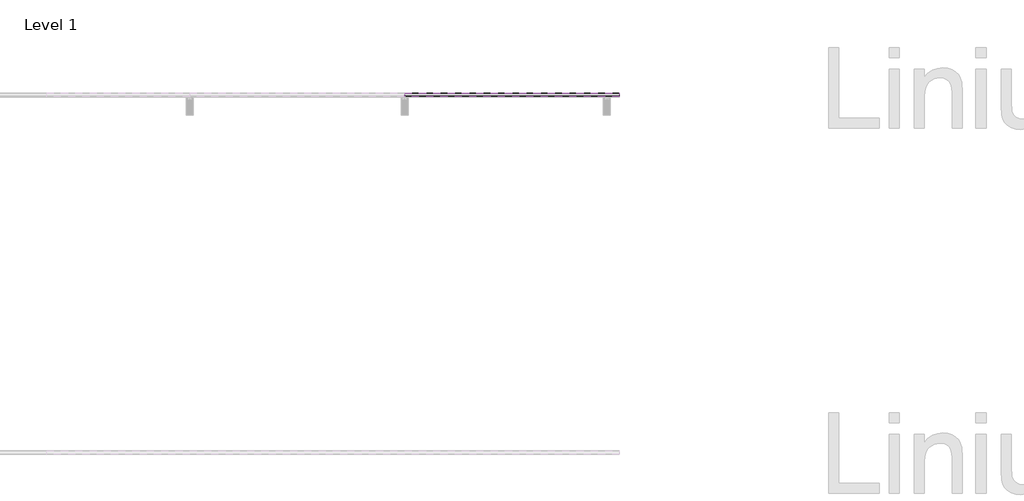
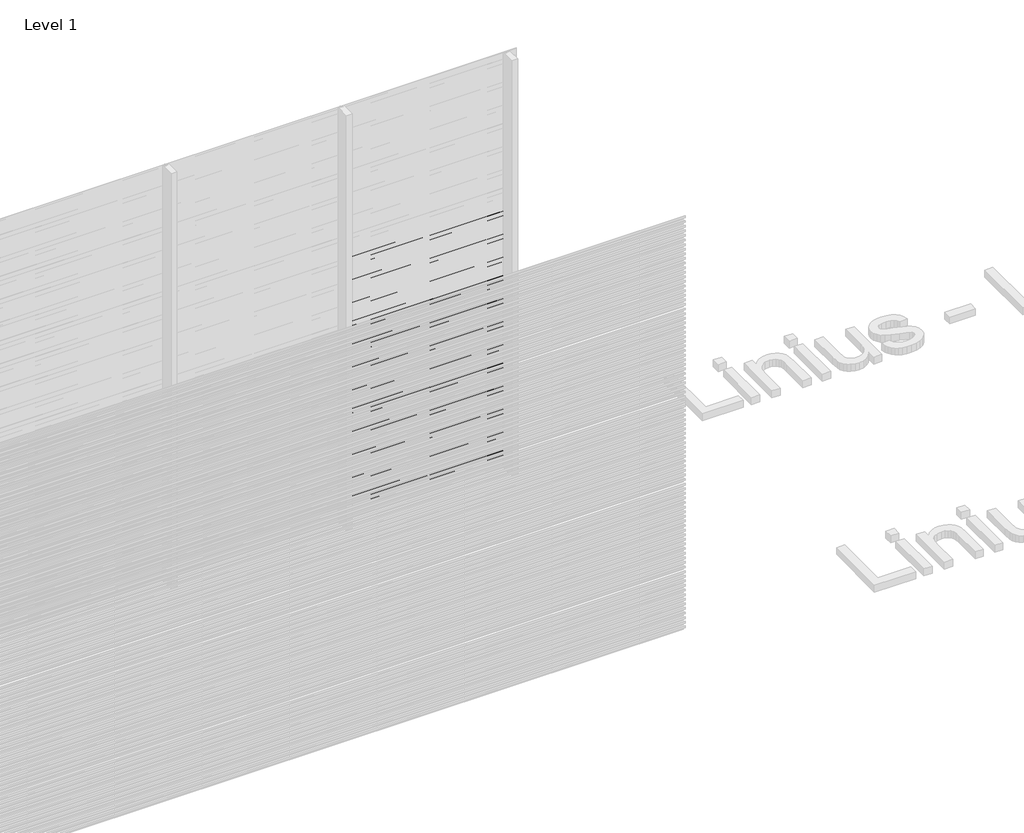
# One storey, part 47 of 507: 58 proxies.
"""IFC4 building model written with IfcOpenShell, lengths in millimetres."""

from ifc_helpers import new_model, si_unit, frame, origin, place, context, project, spatial, polyline, outline, extrude, element, save

model = new_model("IFC4")

# Units and contexts
model_context = context("Model", 3, world=origin())
ifc_project = project(units=[si_unit("LENGTHUNIT", "METRE", prefix="MILLI")], contexts=[model_context])

# Site, building, storey
site = spatial("IfcSite", under=ifc_project)
building = spatial("IfcBuilding", under=site)
storey = spatial("IfcBuildingStorey", under=building, Name="Level 1", Elevation=0.0)

# Proxies
placement = place(None, origin())
element("IfcBuildingElementProxy", 1, Name="Wall Sweeps", at=placement, inside=storey, context=model_context, shape_type="SweptSolid", body=[
    extrude(outline(polyline([(29003.4540136, 1907.4), (29003.4540136, 1893.9), (29002.2040136, 1894.6216933), (29002.2040136, 1906.6782281), (28983.0540136, 1917.7345698), (28983.0540136, 1931.4), (28984.3040136, 1931.4), (28984.3040136, 1918.4562577), (29003.4540136, 1907.4)])), frame((49766.6208095, 0.0, 0.0), z_axis=(1.0, 0.0, 0.0), x_axis=(0.0, 1.0, 0.0)), (0.0, 0.0, 1.0), 1200.0000002),
])
element("IfcBuildingElementProxy", 2, Name="Wall Sweeps", at=placement, inside=storey, context=model_context, shape_type="SweptSolid", body=[
    extrude(outline(polyline([(29003.4540136, 1874.1), (29003.4540136, 1860.6), (29002.2040136, 1861.3216933), (29002.2040136, 1873.3782281), (28983.0540136, 1884.4345698), (28983.0540136, 1898.1), (28984.3040136, 1898.1), (28984.3040136, 1885.1562577), (29003.4540136, 1874.1)])), frame((49766.6208095, 0.0, 0.0), z_axis=(1.0, 0.0, 0.0), x_axis=(0.0, 1.0, 0.0)), (0.0, 0.0, 1.0), 1200.0000002),
])
element("IfcBuildingElementProxy", 3, Name="Wall Sweeps", at=placement, inside=storey, context=model_context, shape_type="SweptSolid", body=[
    extrude(outline(polyline([(29003.4540136, 1840.8), (29003.4540136, 1827.3), (29002.2040136, 1828.0216933), (29002.2040136, 1840.0782281), (28983.0540136, 1851.1345698), (28983.0540136, 1864.8), (28984.3040136, 1864.8), (28984.3040136, 1851.8562577), (29003.4540136, 1840.8)])), frame((49766.6208095, 0.0, 0.0), z_axis=(1.0, 0.0, 0.0), x_axis=(0.0, 1.0, 0.0)), (0.0, 0.0, 1.0), 1200.0000002),
])
element("IfcBuildingElementProxy", 4, Name="Wall Sweeps", at=placement, inside=storey, context=model_context, shape_type="SweptSolid", body=[
    extrude(outline(polyline([(29003.4540136, 1807.5), (29003.4540136, 1794.0), (29002.2040136, 1794.7216933), (29002.2040136, 1806.7782281), (28983.0540136, 1817.8345698), (28983.0540136, 1831.5), (28984.3040136, 1831.5), (28984.3040136, 1818.5562577), (29003.4540136, 1807.5)])), frame((49766.6208095, 0.0, 0.0), z_axis=(1.0, 0.0, 0.0), x_axis=(0.0, 1.0, 0.0)), (0.0, 0.0, 1.0), 1200.0000002),
])
element("IfcBuildingElementProxy", 5, Name="Wall Sweeps", at=placement, inside=storey, context=model_context, shape_type="SweptSolid", body=[
    extrude(outline(polyline([(29003.4540136, 1774.2), (29003.4540136, 1760.7), (29002.2040136, 1761.4216933), (29002.2040136, 1773.4782281), (28983.0540136, 1784.5345698), (28983.0540136, 1798.2), (28984.3040136, 1798.2), (28984.3040136, 1785.2562577), (29003.4540136, 1774.2)])), frame((49766.6208095, 0.0, 0.0), z_axis=(1.0, 0.0, 0.0), x_axis=(0.0, 1.0, 0.0)), (0.0, 0.0, 1.0), 1200.0000002),
])
element("IfcBuildingElementProxy", 6, Name="Wall Sweeps", at=placement, inside=storey, context=model_context, shape_type="SweptSolid", body=[
    extrude(outline(polyline([(29003.4540136, 1740.9), (29003.4540136, 1727.4), (29002.2040136, 1728.1216933), (29002.2040136, 1740.1782281), (28983.0540136, 1751.2345698), (28983.0540136, 1764.9), (28984.3040136, 1764.9), (28984.3040136, 1751.9562577), (29003.4540136, 1740.9)])), frame((49766.6208095, 0.0, 0.0), z_axis=(1.0, 0.0, 0.0), x_axis=(0.0, 1.0, 0.0)), (0.0, 0.0, 1.0), 1200.0000002),
])
element("IfcBuildingElementProxy", 7, Name="Wall Sweeps", at=placement, inside=storey, context=model_context, shape_type="SweptSolid", body=[
    extrude(outline(polyline([(29003.4540136, 1707.6), (29003.4540136, 1694.1), (29002.2040136, 1694.8216933), (29002.2040136, 1706.8782281), (28983.0540136, 1717.9345698), (28983.0540136, 1731.6), (28984.3040136, 1731.6), (28984.3040136, 1718.6562577), (29003.4540136, 1707.6)])), frame((49766.6208095, 0.0, 0.0), z_axis=(1.0, 0.0, 0.0), x_axis=(0.0, 1.0, 0.0)), (0.0, 0.0, 1.0), 1200.0000002),
])
element("IfcBuildingElementProxy", 8, Name="Wall Sweeps", at=placement, inside=storey, context=model_context, shape_type="SweptSolid", body=[
    extrude(outline(polyline([(29003.4540136, 1674.3), (29003.4540136, 1660.8), (29002.2040136, 1661.5216933), (29002.2040136, 1673.5782281), (28983.0540136, 1684.6345698), (28983.0540136, 1698.3), (28984.3040136, 1698.3), (28984.3040136, 1685.3562577), (29003.4540136, 1674.3)])), frame((49766.6208095, 0.0, 0.0), z_axis=(1.0, 0.0, 0.0), x_axis=(0.0, 1.0, 0.0)), (0.0, 0.0, 1.0), 1200.0000002),
])
element("IfcBuildingElementProxy", 9, Name="Wall Sweeps", at=placement, inside=storey, context=model_context, shape_type="SweptSolid", body=[
    extrude(outline(polyline([(29003.4540136, 1641.0), (29003.4540136, 1627.5), (29002.2040136, 1628.2216933), (29002.2040136, 1640.2782281), (28983.0540136, 1651.3345698), (28983.0540136, 1665.0), (28984.3040136, 1665.0), (28984.3040136, 1652.0562577), (29003.4540136, 1641.0)])), frame((49766.6208095, 0.0, 0.0), z_axis=(1.0, 0.0, 0.0), x_axis=(0.0, 1.0, 0.0)), (0.0, 0.0, 1.0), 1200.0000002),
])
element("IfcBuildingElementProxy", 10, Name="Wall Sweeps", at=placement, inside=storey, context=model_context, shape_type="SweptSolid", body=[
    extrude(outline(polyline([(29003.4540136, 1607.7), (29003.4540136, 1594.2), (29002.2040136, 1594.9216933), (29002.2040136, 1606.9782281), (28983.0540136, 1618.0345698), (28983.0540136, 1631.7), (28984.3040136, 1631.7), (28984.3040136, 1618.7562577), (29003.4540136, 1607.7)])), frame((49766.6208095, 0.0, 0.0), z_axis=(1.0, 0.0, 0.0), x_axis=(0.0, 1.0, 0.0)), (0.0, 0.0, 1.0), 1200.0000002),
])
element("IfcBuildingElementProxy", 11, Name="Wall Sweeps", at=placement, inside=storey, context=model_context, shape_type="SweptSolid", body=[
    extrude(outline(polyline([(29003.4540136, 1574.4), (29003.4540136, 1560.9), (29002.2040136, 1561.6216933), (29002.2040136, 1573.6782281), (28983.0540136, 1584.7345698), (28983.0540136, 1598.4), (28984.3040136, 1598.4), (28984.3040136, 1585.4562577), (29003.4540136, 1574.4)])), frame((49766.6208095, 0.0, 0.0), z_axis=(1.0, 0.0, 0.0), x_axis=(0.0, 1.0, 0.0)), (0.0, 0.0, 1.0), 1200.0000002),
])
element("IfcBuildingElementProxy", 12, Name="Wall Sweeps", at=placement, inside=storey, context=model_context, shape_type="SweptSolid", body=[
    extrude(outline(polyline([(29003.4540136, 1541.1), (29003.4540136, 1527.6), (29002.2040136, 1528.3216933), (29002.2040136, 1540.3782281), (28983.0540136, 1551.4345698), (28983.0540136, 1565.1), (28984.3040136, 1565.1), (28984.3040136, 1552.1562577), (29003.4540136, 1541.1)])), frame((49766.6208095, 0.0, 0.0), z_axis=(1.0, 0.0, 0.0), x_axis=(0.0, 1.0, 0.0)), (0.0, 0.0, 1.0), 1200.0000002),
])
element("IfcBuildingElementProxy", 13, Name="Wall Sweeps", at=placement, inside=storey, context=model_context, shape_type="SweptSolid", body=[
    extrude(outline(polyline([(29003.4540136, 1507.8), (29003.4540136, 1494.3), (29002.2040136, 1495.0216933), (29002.2040136, 1507.0782281), (28983.0540136, 1518.1345698), (28983.0540136, 1531.8), (28984.3040136, 1531.8), (28984.3040136, 1518.8562577), (29003.4540136, 1507.8)])), frame((49766.6208095, 0.0, 0.0), z_axis=(1.0, 0.0, 0.0), x_axis=(0.0, 1.0, 0.0)), (0.0, 0.0, 1.0), 1200.0000002),
])
element("IfcBuildingElementProxy", 14, Name="Wall Sweeps", at=placement, inside=storey, context=model_context, shape_type="SweptSolid", body=[
    extrude(outline(polyline([(29003.4540136, 1474.5), (29003.4540136, 1461.0), (29002.2040136, 1461.7216933), (29002.2040136, 1473.7782281), (28983.0540136, 1484.8345698), (28983.0540136, 1498.5), (28984.3040136, 1498.5), (28984.3040136, 1485.5562577), (29003.4540136, 1474.5)])), frame((49766.6208095, 0.0, 0.0), z_axis=(1.0, 0.0, 0.0), x_axis=(0.0, 1.0, 0.0)), (0.0, 0.0, 1.0), 1200.0000002),
])
element("IfcBuildingElementProxy", 15, Name="Wall Sweeps", at=placement, inside=storey, context=model_context, shape_type="SweptSolid", body=[
    extrude(outline(polyline([(29003.4540136, 1441.2), (29003.4540136, 1427.7), (29002.2040136, 1428.4216933), (29002.2040136, 1440.4782281), (28983.0540136, 1451.5345698), (28983.0540136, 1465.2), (28984.3040136, 1465.2), (28984.3040136, 1452.2562577), (29003.4540136, 1441.2)])), frame((49766.6208095, 0.0, 0.0), z_axis=(1.0, 0.0, 0.0), x_axis=(0.0, 1.0, 0.0)), (0.0, 0.0, 1.0), 1200.0000002),
])
element("IfcBuildingElementProxy", 16, Name="Wall Sweeps", at=placement, inside=storey, context=model_context, shape_type="SweptSolid", body=[
    extrude(outline(polyline([(29003.4540136, 1407.9), (29003.4540136, 1394.4), (29002.2040136, 1395.1216933), (29002.2040136, 1407.1782281), (28983.0540136, 1418.2345698), (28983.0540136, 1431.9), (28984.3040136, 1431.9), (28984.3040136, 1418.9562577), (29003.4540136, 1407.9)])), frame((49766.6208095, 0.0, 0.0), z_axis=(1.0, 0.0, 0.0), x_axis=(0.0, 1.0, 0.0)), (0.0, 0.0, 1.0), 1200.0000002),
])
element("IfcBuildingElementProxy", 17, Name="Wall Sweeps", at=placement, inside=storey, context=model_context, shape_type="SweptSolid", body=[
    extrude(outline(polyline([(29003.4540136, 1374.6), (29003.4540136, 1361.1), (29002.2040136, 1361.8216933), (29002.2040136, 1373.8782281), (28983.0540136, 1384.9345698), (28983.0540136, 1398.6), (28984.3040136, 1398.6), (28984.3040136, 1385.6562577), (29003.4540136, 1374.6)])), frame((49766.6208095, 0.0, 0.0), z_axis=(1.0, 0.0, 0.0), x_axis=(0.0, 1.0, 0.0)), (0.0, 0.0, 1.0), 1200.0000002),
])
element("IfcBuildingElementProxy", 18, Name="Wall Sweeps", at=placement, inside=storey, context=model_context, shape_type="SweptSolid", body=[
    extrude(outline(polyline([(29003.4540136, 1341.3), (29003.4540136, 1327.8), (29002.2040136, 1328.5216933), (29002.2040136, 1340.5782281), (28983.0540136, 1351.6345698), (28983.0540136, 1365.3), (28984.3040136, 1365.3), (28984.3040136, 1352.3562577), (29003.4540136, 1341.3)])), frame((49766.6208095, 0.0, 0.0), z_axis=(1.0, 0.0, 0.0), x_axis=(0.0, 1.0, 0.0)), (0.0, 0.0, 1.0), 1200.0000002),
])
element("IfcBuildingElementProxy", 19, Name="Wall Sweeps", at=placement, inside=storey, context=model_context, shape_type="SweptSolid", body=[
    extrude(outline(polyline([(29003.4540136, 1308.0), (29003.4540136, 1294.5), (29002.2040136, 1295.2216933), (29002.2040136, 1307.2782281), (28983.0540136, 1318.3345698), (28983.0540136, 1332.0), (28984.3040136, 1332.0), (28984.3040136, 1319.0562577), (29003.4540136, 1308.0)])), frame((49766.6208095, 0.0, 0.0), z_axis=(1.0, 0.0, 0.0), x_axis=(0.0, 1.0, 0.0)), (0.0, 0.0, 1.0), 1200.0000002),
])
element("IfcBuildingElementProxy", 20, Name="Wall Sweeps", at=placement, inside=storey, context=model_context, shape_type="SweptSolid", body=[
    extrude(outline(polyline([(29003.4540136, 1274.7), (29003.4540136, 1261.2), (29002.2040136, 1261.9216933), (29002.2040136, 1273.9782281), (28983.0540136, 1285.0345698), (28983.0540136, 1298.7), (28984.3040136, 1298.7), (28984.3040136, 1285.7562577), (29003.4540136, 1274.7)])), frame((49766.6208095, 0.0, 0.0), z_axis=(1.0, 0.0, 0.0), x_axis=(0.0, 1.0, 0.0)), (0.0, 0.0, 1.0), 1200.0000002),
])
element("IfcBuildingElementProxy", 21, Name="Wall Sweeps", at=placement, inside=storey, context=model_context, shape_type="SweptSolid", body=[
    extrude(outline(polyline([(29003.4540136, 1241.4), (29003.4540136, 1227.9), (29002.2040136, 1228.6216933), (29002.2040136, 1240.6782281), (28983.0540136, 1251.7345698), (28983.0540136, 1265.4), (28984.3040136, 1265.4), (28984.3040136, 1252.4562577), (29003.4540136, 1241.4)])), frame((49766.6208095, 0.0, 0.0), z_axis=(1.0, 0.0, 0.0), x_axis=(0.0, 1.0, 0.0)), (0.0, 0.0, 1.0), 1200.0000002),
])
element("IfcBuildingElementProxy", 22, Name="Wall Sweeps", at=placement, inside=storey, context=model_context, shape_type="SweptSolid", body=[
    extrude(outline(polyline([(29003.4540136, 1208.1), (29003.4540136, 1194.6), (29002.2040136, 1195.3216933), (29002.2040136, 1207.3782281), (28983.0540136, 1218.4345698), (28983.0540136, 1232.1), (28984.3040136, 1232.1), (28984.3040136, 1219.1562577), (29003.4540136, 1208.1)])), frame((49766.6208095, 0.0, 0.0), z_axis=(1.0, 0.0, 0.0), x_axis=(0.0, 1.0, 0.0)), (0.0, 0.0, 1.0), 1200.0000002),
])
element("IfcBuildingElementProxy", 23, Name="Wall Sweeps", at=placement, inside=storey, context=model_context, shape_type="SweptSolid", body=[
    extrude(outline(polyline([(29003.4540136, 1174.8), (29003.4540136, 1161.3), (29002.2040136, 1162.0216933), (29002.2040136, 1174.0782281), (28983.0540136, 1185.1345698), (28983.0540136, 1198.8), (28984.3040136, 1198.8), (28984.3040136, 1185.8562577), (29003.4540136, 1174.8)])), frame((49766.6208095, 0.0, 0.0), z_axis=(1.0, 0.0, 0.0), x_axis=(0.0, 1.0, 0.0)), (0.0, 0.0, 1.0), 1200.0000002),
])
element("IfcBuildingElementProxy", 24, Name="Wall Sweeps", at=placement, inside=storey, context=model_context, shape_type="SweptSolid", body=[
    extrude(outline(polyline([(29003.4540136, 1141.5), (29003.4540136, 1128.0), (29002.2040136, 1128.7216933), (29002.2040136, 1140.7782281), (28983.0540136, 1151.8345698), (28983.0540136, 1165.5), (28984.3040136, 1165.5), (28984.3040136, 1152.5562577), (29003.4540136, 1141.5)])), frame((49766.6208095, 0.0, 0.0), z_axis=(1.0, 0.0, 0.0), x_axis=(0.0, 1.0, 0.0)), (0.0, 0.0, 1.0), 1200.0000002),
])
element("IfcBuildingElementProxy", 25, Name="Wall Sweeps", at=placement, inside=storey, context=model_context, shape_type="SweptSolid", body=[
    extrude(outline(polyline([(29003.4540136, 1108.2), (29003.4540136, 1094.7), (29002.2040136, 1095.4216933), (29002.2040136, 1107.4782281), (28983.0540136, 1118.5345698), (28983.0540136, 1132.2), (28984.3040136, 1132.2), (28984.3040136, 1119.2562577), (29003.4540136, 1108.2)])), frame((49766.6208095, 0.0, 0.0), z_axis=(1.0, 0.0, 0.0), x_axis=(0.0, 1.0, 0.0)), (0.0, 0.0, 1.0), 1200.0000002),
])
element("IfcBuildingElementProxy", 26, Name="Wall Sweeps", at=placement, inside=storey, context=model_context, shape_type="SweptSolid", body=[
    extrude(outline(polyline([(29003.4540136, 1074.9), (29003.4540136, 1061.4), (29002.2040136, 1062.1216933), (29002.2040136, 1074.1782281), (28983.0540136, 1085.2345698), (28983.0540136, 1098.9), (28984.3040136, 1098.9), (28984.3040136, 1085.9562577), (29003.4540136, 1074.9)])), frame((49766.6208095, 0.0, 0.0), z_axis=(1.0, 0.0, 0.0), x_axis=(0.0, 1.0, 0.0)), (0.0, 0.0, 1.0), 1200.0000002),
])
element("IfcBuildingElementProxy", 27, Name="Wall Sweeps", at=placement, inside=storey, context=model_context, shape_type="SweptSolid", body=[
    extrude(outline(polyline([(29003.4540136, 1041.6), (29003.4540136, 1028.1), (29002.2040136, 1028.8216933), (29002.2040136, 1040.8782281), (28983.0540136, 1051.9345698), (28983.0540136, 1065.6), (28984.3040136, 1065.6), (28984.3040136, 1052.6562577), (29003.4540136, 1041.6)])), frame((49766.6208095, 0.0, 0.0), z_axis=(1.0, 0.0, 0.0), x_axis=(0.0, 1.0, 0.0)), (0.0, 0.0, 1.0), 1200.0000002),
])
element("IfcBuildingElementProxy", 28, Name="Wall Sweeps", at=placement, inside=storey, context=model_context, shape_type="SweptSolid", body=[
    extrude(outline(polyline([(29003.4540136, 1008.3), (29003.4540136, 994.8), (29002.2040136, 995.5216933), (29002.2040136, 1007.5782281), (28983.0540136, 1018.6345698), (28983.0540136, 1032.3), (28984.3040136, 1032.3), (28984.3040136, 1019.3562577), (29003.4540136, 1008.3)])), frame((49766.6208095, 0.0, 0.0), z_axis=(1.0, 0.0, 0.0), x_axis=(0.0, 1.0, 0.0)), (0.0, 0.0, 1.0), 1200.0000002),
])
element("IfcBuildingElementProxy", 29, Name="Wall Sweeps", at=placement, inside=storey, context=model_context, shape_type="SweptSolid", body=[
    extrude(outline(polyline([(29003.4540136, 975.0), (29003.4540136, 961.5), (29002.2040136, 962.2216933), (29002.2040136, 974.2782281), (28983.0540136, 985.3345698), (28983.0540136, 999.0), (28984.3040136, 999.0), (28984.3040136, 986.0562577), (29003.4540136, 975.0)])), frame((49766.6208095, 0.0, 0.0), z_axis=(1.0, 0.0, 0.0), x_axis=(0.0, 1.0, 0.0)), (0.0, 0.0, 1.0), 1200.0000002),
])
element("IfcBuildingElementProxy", 30, Name="Wall Sweeps", at=placement, inside=storey, context=model_context, shape_type="SweptSolid", body=[
    extrude(outline(polyline([(29003.4540136, 941.7), (29003.4540136, 928.2), (29002.2040136, 928.9216933), (29002.2040136, 940.9782281), (28983.0540136, 952.0345698), (28983.0540136, 965.7), (28984.3040136, 965.7), (28984.3040136, 952.7562577), (29003.4540136, 941.7)])), frame((49766.6208095, 0.0, 0.0), z_axis=(1.0, 0.0, 0.0), x_axis=(0.0, 1.0, 0.0)), (0.0, 0.0, 1.0), 1200.0000002),
])
element("IfcBuildingElementProxy", 31, Name="Wall Sweeps", at=placement, inside=storey, context=model_context, shape_type="SweptSolid", body=[
    extrude(outline(polyline([(29003.4540136, 908.4), (29003.4540136, 894.9), (29002.2040136, 895.6216933), (29002.2040136, 907.6782281), (28983.0540136, 918.7345698), (28983.0540136, 932.4), (28984.3040136, 932.4), (28984.3040136, 919.4562577), (29003.4540136, 908.4)])), frame((49766.6208095, 0.0, 0.0), z_axis=(1.0, 0.0, 0.0), x_axis=(0.0, 1.0, 0.0)), (0.0, 0.0, 1.0), 1200.0000002),
])
element("IfcBuildingElementProxy", 32, Name="Wall Sweeps", at=placement, inside=storey, context=model_context, shape_type="SweptSolid", body=[
    extrude(outline(polyline([(29003.4540136, 875.1), (29003.4540136, 861.6), (29002.2040136, 862.3216933), (29002.2040136, 874.3782281), (28983.0540136, 885.4345698), (28983.0540136, 899.1), (28984.3040136, 899.1), (28984.3040136, 886.1562577), (29003.4540136, 875.1)])), frame((49766.6208095, 0.0, 0.0), z_axis=(1.0, 0.0, 0.0), x_axis=(0.0, 1.0, 0.0)), (0.0, 0.0, 1.0), 1200.0000002),
])
element("IfcBuildingElementProxy", 33, Name="Wall Sweeps", at=placement, inside=storey, context=model_context, shape_type="SweptSolid", body=[
    extrude(outline(polyline([(29003.4540136, 841.8), (29003.4540136, 828.3), (29002.2040136, 829.0216933), (29002.2040136, 841.0782281), (28983.0540136, 852.1345698), (28983.0540136, 865.8), (28984.3040136, 865.8), (28984.3040136, 852.8562577), (29003.4540136, 841.8)])), frame((49766.6208095, 0.0, 0.0), z_axis=(1.0, 0.0, 0.0), x_axis=(0.0, 1.0, 0.0)), (0.0, 0.0, 1.0), 1200.0000002),
])
element("IfcBuildingElementProxy", 34, Name="Wall Sweeps", at=placement, inside=storey, context=model_context, shape_type="SweptSolid", body=[
    extrude(outline(polyline([(29003.4540136, 808.5), (29003.4540136, 795.0), (29002.2040136, 795.7216933), (29002.2040136, 807.7782281), (28983.0540136, 818.8345698), (28983.0540136, 832.5), (28984.3040136, 832.5), (28984.3040136, 819.5562577), (29003.4540136, 808.5)])), frame((49766.6208095, 0.0, 0.0), z_axis=(1.0, 0.0, 0.0), x_axis=(0.0, 1.0, 0.0)), (0.0, 0.0, 1.0), 1200.0000002),
])
element("IfcBuildingElementProxy", 35, Name="Wall Sweeps", at=placement, inside=storey, context=model_context, shape_type="SweptSolid", body=[
    extrude(outline(polyline([(29003.4540136, 775.2), (29003.4540136, 761.7), (29002.2040136, 762.4216933), (29002.2040136, 774.4782281), (28983.0540136, 785.5345698), (28983.0540136, 799.2), (28984.3040136, 799.2), (28984.3040136, 786.2562577), (29003.4540136, 775.2)])), frame((49766.6208095, 0.0, 0.0), z_axis=(1.0, 0.0, 0.0), x_axis=(0.0, 1.0, 0.0)), (0.0, 0.0, 1.0), 1200.0000002),
])
element("IfcBuildingElementProxy", 36, Name="Wall Sweeps", at=placement, inside=storey, context=model_context, shape_type="SweptSolid", body=[
    extrude(outline(polyline([(29003.4540136, 741.9), (29003.4540136, 728.4), (29002.2040136, 729.1216933), (29002.2040136, 741.1782281), (28983.0540136, 752.2345698), (28983.0540136, 765.9), (28984.3040136, 765.9), (28984.3040136, 752.9562577), (29003.4540136, 741.9)])), frame((49766.6208095, 0.0, 0.0), z_axis=(1.0, 0.0, 0.0), x_axis=(0.0, 1.0, 0.0)), (0.0, 0.0, 1.0), 1200.0000002),
])
element("IfcBuildingElementProxy", 37, Name="Wall Sweeps", at=placement, inside=storey, context=model_context, shape_type="SweptSolid", body=[
    extrude(outline(polyline([(29003.4540136, 708.6), (29003.4540136, 695.1), (29002.2040136, 695.8216933), (29002.2040136, 707.8782281), (28983.0540136, 718.9345698), (28983.0540136, 732.6), (28984.3040136, 732.6), (28984.3040136, 719.6562577), (29003.4540136, 708.6)])), frame((49766.6208095, 0.0, 0.0), z_axis=(1.0, 0.0, 0.0), x_axis=(0.0, 1.0, 0.0)), (0.0, 0.0, 1.0), 1200.0000002),
])
element("IfcBuildingElementProxy", 38, Name="Wall Sweeps", at=placement, inside=storey, context=model_context, shape_type="SweptSolid", body=[
    extrude(outline(polyline([(29003.4540136, 675.3), (29003.4540136, 661.8), (29002.2040136, 662.5216933), (29002.2040136, 674.5782281), (28983.0540136, 685.6345698), (28983.0540136, 699.3), (28984.3040136, 699.3), (28984.3040136, 686.3562577), (29003.4540136, 675.3)])), frame((49766.6208095, 0.0, 0.0), z_axis=(1.0, 0.0, 0.0), x_axis=(0.0, 1.0, 0.0)), (0.0, 0.0, 1.0), 1200.0000002),
])
element("IfcBuildingElementProxy", 39, Name="Wall Sweeps", at=placement, inside=storey, context=model_context, shape_type="SweptSolid", body=[
    extrude(outline(polyline([(29003.4540136, 642.0), (29003.4540136, 628.5), (29002.2040136, 629.2216933), (29002.2040136, 641.2782281), (28983.0540136, 652.3345698), (28983.0540136, 666.0), (28984.3040136, 666.0), (28984.3040136, 653.0562577), (29003.4540136, 642.0)])), frame((49766.6208095, 0.0, 0.0), z_axis=(1.0, 0.0, 0.0), x_axis=(0.0, 1.0, 0.0)), (0.0, 0.0, 1.0), 1200.0000002),
])
element("IfcBuildingElementProxy", 40, Name="Wall Sweeps", at=placement, inside=storey, context=model_context, shape_type="SweptSolid", body=[
    extrude(outline(polyline([(29003.4540136, 608.7), (29003.4540136, 595.2), (29002.2040136, 595.9216933), (29002.2040136, 607.9782281), (28983.0540136, 619.0345698), (28983.0540136, 632.7), (28984.3040136, 632.7), (28984.3040136, 619.7562577), (29003.4540136, 608.7)])), frame((49766.6208095, 0.0, 0.0), z_axis=(1.0, 0.0, 0.0), x_axis=(0.0, 1.0, 0.0)), (0.0, 0.0, 1.0), 1200.0000002),
])
element("IfcBuildingElementProxy", 41, Name="Wall Sweeps", at=placement, inside=storey, context=model_context, shape_type="SweptSolid", body=[
    extrude(outline(polyline([(29003.4540136, 575.4), (29003.4540136, 561.9), (29002.2040136, 562.6216933), (29002.2040136, 574.6782281), (28983.0540136, 585.7345698), (28983.0540136, 599.4), (28984.3040136, 599.4), (28984.3040136, 586.4562577), (29003.4540136, 575.4)])), frame((49766.6208095, 0.0, 0.0), z_axis=(1.0, 0.0, 0.0), x_axis=(0.0, 1.0, 0.0)), (0.0, 0.0, 1.0), 1200.0000002),
])
element("IfcBuildingElementProxy", 42, Name="Wall Sweeps", at=placement, inside=storey, context=model_context, shape_type="SweptSolid", body=[
    extrude(outline(polyline([(29003.4540136, 542.1), (29003.4540136, 528.6), (29002.2040136, 529.3216933), (29002.2040136, 541.3782281), (28983.0540136, 552.4345698), (28983.0540136, 566.1), (28984.3040136, 566.1), (28984.3040136, 553.1562577), (29003.4540136, 542.1)])), frame((49766.6208095, 0.0, 0.0), z_axis=(1.0, 0.0, 0.0), x_axis=(0.0, 1.0, 0.0)), (0.0, 0.0, 1.0), 1200.0000002),
])
element("IfcBuildingElementProxy", 43, Name="Wall Sweeps", at=placement, inside=storey, context=model_context, shape_type="SweptSolid", body=[
    extrude(outline(polyline([(29003.4540136, 508.8), (29003.4540136, 495.3), (29002.2040136, 496.0216933), (29002.2040136, 508.0782281), (28983.0540136, 519.1345698), (28983.0540136, 532.8), (28984.3040136, 532.8), (28984.3040136, 519.8562577), (29003.4540136, 508.8)])), frame((49766.6208095, 0.0, 0.0), z_axis=(1.0, 0.0, 0.0), x_axis=(0.0, 1.0, 0.0)), (0.0, 0.0, 1.0), 1200.0000002),
])
element("IfcBuildingElementProxy", 44, Name="Wall Sweeps", at=placement, inside=storey, context=model_context, shape_type="SweptSolid", body=[
    extrude(outline(polyline([(29003.4540136, 475.5), (29003.4540136, 462.0), (29002.2040136, 462.7216933), (29002.2040136, 474.7782281), (28983.0540136, 485.8345698), (28983.0540136, 499.5), (28984.3040136, 499.5), (28984.3040136, 486.5562577), (29003.4540136, 475.5)])), frame((49766.6208095, 0.0, 0.0), z_axis=(1.0, 0.0, 0.0), x_axis=(0.0, 1.0, 0.0)), (0.0, 0.0, 1.0), 1200.0000002),
])
element("IfcBuildingElementProxy", 45, Name="Wall Sweeps", at=placement, inside=storey, context=model_context, shape_type="SweptSolid", body=[
    extrude(outline(polyline([(29003.4540136, 442.2), (29003.4540136, 428.7), (29002.2040136, 429.4216933), (29002.2040136, 441.4782281), (28983.0540136, 452.5345698), (28983.0540136, 466.2), (28984.3040136, 466.2), (28984.3040136, 453.2562577), (29003.4540136, 442.2)])), frame((49766.6208095, 0.0, 0.0), z_axis=(1.0, 0.0, 0.0), x_axis=(0.0, 1.0, 0.0)), (0.0, 0.0, 1.0), 1200.0000002),
])
element("IfcBuildingElementProxy", 46, Name="Wall Sweeps", at=placement, inside=storey, context=model_context, shape_type="SweptSolid", body=[
    extrude(outline(polyline([(29003.4540136, 408.9), (29003.4540136, 395.4), (29002.2040136, 396.1216933), (29002.2040136, 408.1782281), (28983.0540136, 419.2345698), (28983.0540136, 432.9), (28984.3040136, 432.9), (28984.3040136, 419.9562577), (29003.4540136, 408.9)])), frame((49766.6208095, 0.0, 0.0), z_axis=(1.0, 0.0, 0.0), x_axis=(0.0, 1.0, 0.0)), (0.0, 0.0, 1.0), 1200.0000002),
])
element("IfcBuildingElementProxy", 47, Name="Wall Sweeps", at=placement, inside=storey, context=model_context, shape_type="SweptSolid", body=[
    extrude(outline(polyline([(29003.4540136, 375.6), (29003.4540136, 362.1), (29002.2040136, 362.8216933), (29002.2040136, 374.8782281), (28983.0540136, 385.9345698), (28983.0540136, 399.6), (28984.3040136, 399.6), (28984.3040136, 386.6562577), (29003.4540136, 375.6)])), frame((49766.6208095, 0.0, 0.0), z_axis=(1.0, 0.0, 0.0), x_axis=(0.0, 1.0, 0.0)), (0.0, 0.0, 1.0), 1200.0000002),
])
element("IfcBuildingElementProxy", 48, Name="Wall Sweeps", at=placement, inside=storey, context=model_context, shape_type="SweptSolid", body=[
    extrude(outline(polyline([(29003.4540136, 342.3), (29003.4540136, 328.8), (29002.2040136, 329.5216933), (29002.2040136, 341.5782281), (28983.0540136, 352.6345698), (28983.0540136, 366.3), (28984.3040136, 366.3), (28984.3040136, 353.3562577), (29003.4540136, 342.3)])), frame((49766.6208095, 0.0, 0.0), z_axis=(1.0, 0.0, 0.0), x_axis=(0.0, 1.0, 0.0)), (0.0, 0.0, 1.0), 1200.0000002),
])
element("IfcBuildingElementProxy", 49, Name="Wall Sweeps", at=placement, inside=storey, context=model_context, shape_type="SweptSolid", body=[
    extrude(outline(polyline([(29003.4540136, 309.0), (29003.4540136, 295.5), (29002.2040136, 296.2216933), (29002.2040136, 308.2782281), (28983.0540136, 319.3345698), (28983.0540136, 333.0), (28984.3040136, 333.0), (28984.3040136, 320.0562577), (29003.4540136, 309.0)])), frame((49766.6208095, 0.0, 0.0), z_axis=(1.0, 0.0, 0.0), x_axis=(0.0, 1.0, 0.0)), (0.0, 0.0, 1.0), 1200.0000002),
])
element("IfcBuildingElementProxy", 50, Name="Wall Sweeps", at=placement, inside=storey, context=model_context, shape_type="SweptSolid", body=[
    extrude(outline(polyline([(29003.4540136, 275.7), (29003.4540136, 262.2), (29002.2040136, 262.9216933), (29002.2040136, 274.9782281), (28983.0540136, 286.0345698), (28983.0540136, 299.7), (28984.3040136, 299.7), (28984.3040136, 286.7562577), (29003.4540136, 275.7)])), frame((49766.6208095, 0.0, 0.0), z_axis=(1.0, 0.0, 0.0), x_axis=(0.0, 1.0, 0.0)), (0.0, 0.0, 1.0), 1200.0000002),
])
element("IfcBuildingElementProxy", 51, Name="Wall Sweeps", at=placement, inside=storey, context=model_context, shape_type="SweptSolid", body=[
    extrude(outline(polyline([(29003.4540136, 242.4), (29003.4540136, 228.9), (29002.2040136, 229.6216933), (29002.2040136, 241.6782281), (28983.0540136, 252.7345698), (28983.0540136, 266.4), (28984.3040136, 266.4), (28984.3040136, 253.4562577), (29003.4540136, 242.4)])), frame((49766.6208095, 0.0, 0.0), z_axis=(1.0, 0.0, 0.0), x_axis=(0.0, 1.0, 0.0)), (0.0, 0.0, 1.0), 1200.0000002),
])
element("IfcBuildingElementProxy", 52, Name="Wall Sweeps", at=placement, inside=storey, context=model_context, shape_type="SweptSolid", body=[
    extrude(outline(polyline([(29003.4540136, 209.1), (29003.4540136, 195.6), (29002.2040136, 196.3216933), (29002.2040136, 208.3782281), (28983.0540136, 219.4345698), (28983.0540136, 233.1), (28984.3040136, 233.1), (28984.3040136, 220.1562577), (29003.4540136, 209.1)])), frame((49766.6208095, 0.0, 0.0), z_axis=(1.0, 0.0, 0.0), x_axis=(0.0, 1.0, 0.0)), (0.0, 0.0, 1.0), 1200.0000002),
])
element("IfcBuildingElementProxy", 53, Name="Wall Sweeps", at=placement, inside=storey, context=model_context, shape_type="SweptSolid", body=[
    extrude(outline(polyline([(29003.4540136, 175.8), (29003.4540136, 162.3), (29002.2040136, 163.0216933), (29002.2040136, 175.0782281), (28983.0540136, 186.1345698), (28983.0540136, 199.8), (28984.3040136, 199.8), (28984.3040136, 186.8562577), (29003.4540136, 175.8)])), frame((49766.6208095, 0.0, 0.0), z_axis=(1.0, 0.0, 0.0), x_axis=(0.0, 1.0, 0.0)), (0.0, 0.0, 1.0), 1200.0000002),
])
element("IfcBuildingElementProxy", 54, Name="Wall Sweeps", at=placement, inside=storey, context=model_context, shape_type="SweptSolid", body=[
    extrude(outline(polyline([(29003.4540136, 142.5), (29003.4540136, 129.0), (29002.2040136, 129.7216933), (29002.2040136, 141.7782281), (28983.0540136, 152.8345698), (28983.0540136, 166.5), (28984.3040136, 166.5), (28984.3040136, 153.5562577), (29003.4540136, 142.5)])), frame((49766.6208095, 0.0, 0.0), z_axis=(1.0, 0.0, 0.0), x_axis=(0.0, 1.0, 0.0)), (0.0, 0.0, 1.0), 1200.0000002),
])
element("IfcBuildingElementProxy", 55, Name="Wall Sweeps", at=placement, inside=storey, context=model_context, shape_type="SweptSolid", body=[
    extrude(outline(polyline([(29003.4540136, 109.2), (29003.4540136, 95.7), (29002.2040136, 96.4216933), (29002.2040136, 108.4782281), (28983.0540136, 119.5345698), (28983.0540136, 133.2), (28984.3040136, 133.2), (28984.3040136, 120.2562577), (29003.4540136, 109.2)])), frame((49766.6208095, 0.0, 0.0), z_axis=(1.0, 0.0, 0.0), x_axis=(0.0, 1.0, 0.0)), (0.0, 0.0, 1.0), 1200.0000002),
])
element("IfcBuildingElementProxy", 56, Name="Wall Sweeps", at=placement, inside=storey, context=model_context, shape_type="SweptSolid", body=[
    extrude(outline(polyline([(29003.4540136, 75.9), (29003.4540136, 62.4), (29002.2040136, 63.1216933), (29002.2040136, 75.1782281), (28983.0540136, 86.2345698), (28983.0540136, 99.9), (28984.3040136, 99.9), (28984.3040136, 86.9562577), (29003.4540136, 75.9)])), frame((49766.6208095, 0.0, 0.0), z_axis=(1.0, 0.0, 0.0), x_axis=(0.0, 1.0, 0.0)), (0.0, 0.0, 1.0), 1200.0000002),
])
element("IfcBuildingElementProxy", 57, Name="Wall Sweeps", at=placement, inside=storey, context=model_context, shape_type="SweptSolid", body=[
    extrude(outline(polyline([(29003.4540136, 42.6), (29003.4540136, 29.1), (29002.2040136, 29.8216933), (29002.2040136, 41.8782281), (28983.0540136, 52.9345698), (28983.0540136, 66.6), (28984.3040136, 66.6), (28984.3040136, 53.6562577), (29003.4540136, 42.6)])), frame((49766.6208095, 0.0, 0.0), z_axis=(1.0, 0.0, 0.0), x_axis=(0.0, 1.0, 0.0)), (0.0, 0.0, 1.0), 1200.0000002),
])
element("IfcBuildingElementProxy", 58, Name="Wall Sweeps", at=placement, inside=storey, context=model_context, shape_type="SweptSolid", body=[
    extrude(outline(polyline([(29003.4540136, 9.3), (29003.4540136, -4.2), (29002.2040136, -3.4783067), (29002.2040136, 8.5782281), (28983.0540136, 19.6345698), (28983.0540136, 33.3), (28984.3040136, 33.3), (28984.3040136, 20.3562577), (29003.4540136, 9.3)])), frame((49766.6208095, 0.0, 0.0), z_axis=(1.0, 0.0, 0.0), x_axis=(0.0, 1.0, 0.0)), (0.0, 0.0, 1.0), 1200.0000002),
])

save(model, "model.ifc")
